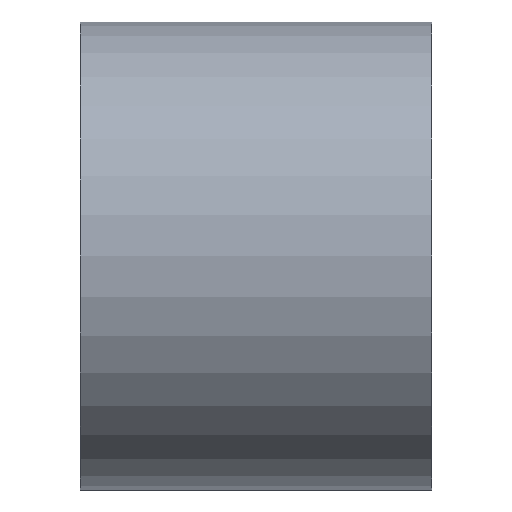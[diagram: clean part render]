
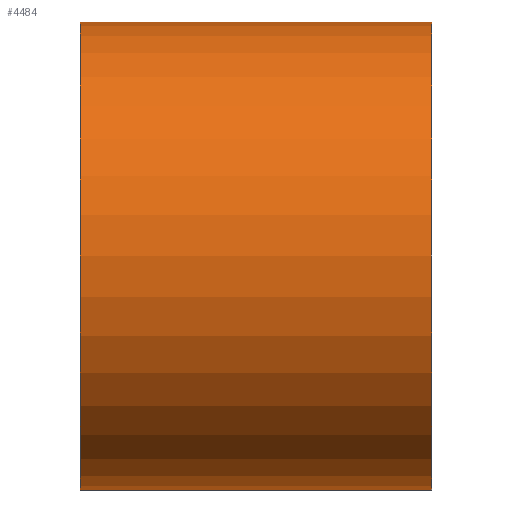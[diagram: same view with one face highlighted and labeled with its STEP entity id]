
A CAD part, left-side view. The second image highlights one B-rep face of the part: STEP entity #4484.
In plain terms, the highlighted cylindrical face has radius 10 mm (diameter 20 mm), a partial arc.
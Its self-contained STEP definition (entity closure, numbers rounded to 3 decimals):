
#1 = CARTESIAN_POINT ( 'NONE',  ( 0., 7.5, -10. ) ) ;
#199 = CIRCLE ( 'NONE', #736, 10. ) ;
#289 = EDGE_CURVE ( 'NONE', #3815, #4121, #199, .T. ) ;
#477 = VERTEX_POINT ( 'NONE', #1068 ) ;
#637 = LINE ( 'NONE', #1862, #2007 ) ;
#736 = AXIS2_PLACEMENT_3D ( 'NONE', #4221, #3478, #2456 ) ;
#739 = VECTOR ( 'NONE', #2729, 1000. ) ;
#822 = CARTESIAN_POINT ( 'NONE',  ( 0., -7.5, 0. ) ) ;
#835 = EDGE_CURVE ( 'NONE', #4121, #477, #2683, .T. ) ;
#976 = ORIENTED_EDGE ( 'NONE', *, *, #2885, .T. ) ;
#1068 = CARTESIAN_POINT ( 'NONE',  ( 0., -7.5, 10. ) ) ;
#1097 = CIRCLE ( 'NONE', #3724, 10. ) ;
#1129 = ORIENTED_EDGE ( 'NONE', *, *, #835, .F. ) ;
#1145 = DIRECTION ( 'NONE',  ( 0., 1., 0. ) ) ;
#1325 = VERTEX_POINT ( 'NONE', #4305 ) ;
#1386 = EDGE_CURVE ( 'NONE', #3815, #1325, #637, .T. ) ;
#1540 = FACE_OUTER_BOUND ( 'NONE', #3936, .T. ) ;
#1803 = ORIENTED_EDGE ( 'NONE', *, *, #1386, .T. ) ;
#1862 = CARTESIAN_POINT ( 'NONE',  ( 0., 7.5, -10. ) ) ;
#2007 = VECTOR ( 'NONE', #2612, 1000. ) ;
#2456 = DIRECTION ( 'NONE',  ( 0., 0., 1. ) ) ;
#2612 = DIRECTION ( 'NONE',  ( 0., -1., 0. ) ) ;
#2632 = DIRECTION ( 'NONE',  ( 0., 0., 1. ) ) ;
#2683 = LINE ( 'NONE', #3414, #739 ) ;
#2729 = DIRECTION ( 'NONE',  ( 0., -1., 0. ) ) ;
#2809 = DIRECTION ( 'NONE',  ( 0., 0., -1. ) ) ;
#2885 = EDGE_CURVE ( 'NONE', #1325, #477, #1097, .T. ) ;
#3164 = DIRECTION ( 'NONE',  ( 0., -1., 0. ) ) ;
#3216 = ORIENTED_EDGE ( 'NONE', *, *, #289, .F. ) ;
#3414 = CARTESIAN_POINT ( 'NONE',  ( 0., 7.5, 10. ) ) ;
#3444 = CARTESIAN_POINT ( 'NONE',  ( 0., 7.5, 0. ) ) ;
#3478 = DIRECTION ( 'NONE',  ( 0., 1., 0. ) ) ;
#3724 = AXIS2_PLACEMENT_3D ( 'NONE', #822, #1145, #2632 ) ;
#3815 = VERTEX_POINT ( 'NONE', #1 ) ;
#3893 = CYLINDRICAL_SURFACE ( 'NONE', #4138, 10. ) ;
#3936 = EDGE_LOOP ( 'NONE', ( #1129, #3216, #1803, #976 ) ) ;
#3943 = CARTESIAN_POINT ( 'NONE',  ( 0., 7.5, 10. ) ) ;
#4121 = VERTEX_POINT ( 'NONE', #3943 ) ;
#4138 = AXIS2_PLACEMENT_3D ( 'NONE', #3444, #3164, #2809 ) ;
#4221 = CARTESIAN_POINT ( 'NONE',  ( 0., 7.5, 0. ) ) ;
#4305 = CARTESIAN_POINT ( 'NONE',  ( 0., -7.5, -10. ) ) ;
#4484 = ADVANCED_FACE ( 'NONE', ( #1540 ), #3893, .T. ) ;
